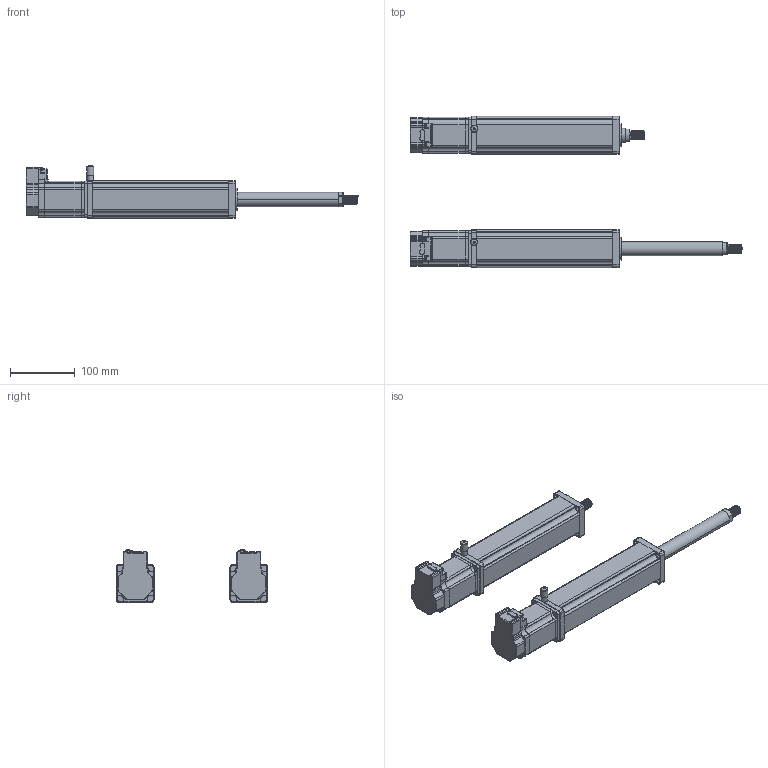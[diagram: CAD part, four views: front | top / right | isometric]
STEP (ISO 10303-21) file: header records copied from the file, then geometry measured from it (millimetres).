
FILE_DESCRIPTION(('FreeCAD Model'),'2;1');
FILE_NAME('Open CASCADE Shape Model','2023-08-04T13:24:52',('Author'),( ''),'Open CASCADE STEP processor 7.5','FreeCAD','Unknown');
FILE_SCHEMA(('AUTOMOTIVE_DESIGN { 1 0 10303 214 1 1 1 1 }'));
Length unit declared in the file: millimetre
Products named in the file (47): Unnamed; Shapes; Shapes001; Shapes002; Shapes003; Shapes004; Shapes005; Shapes006; Shapes007; Shapes008; Shapes009; Shapes010; Shapes011; Shapes012; Shapes013; Shapes014; Shapes015; Shapes016; Shapes017; Shapes018; Shapes019; Shapes020; Shapes021; Shapes022; Shapes023; Shapes024; Shapes025; Shapes026; Shapes027; Shapes028; Shapes029; Shapes030; Shapes031; Shapes032; Shapes033; Shapes034; Shapes035; Shapes036; Shapes037; Shapes038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
Assembly tree (46 placements, depth 2):
  Unnamed
    Shapes
    Shapes001
    Shapes002
    Shapes003
    Shapes004
    Shapes005
    Shapes006
    Shapes007
    Shapes008
    Shapes009
    Shapes010
    Shapes011
    Shapes012
    Shapes013
    Shapes014
    Shapes015
    Shapes016
    Shapes017
    Shapes018
    Shapes019
    Shapes020
    Shapes021
    Shapes022
    Shapes023
    Shapes024
    Shapes025
    Shapes026
    Shapes027
    Shapes028
    Shapes029
    Shapes030
    Shapes031
    Shapes032
    Shapes033
    Shapes034
    Shapes035
    Shapes036
    Shapes037
    Shapes038
    Shapes039
    Shapes040
    Shapes041
    Shapes042
    Shapes043
    AN10-01
    AN10-002
Bounding box: 512.5 x 233.23 x 81.34 mm (x, y, z)
Volume: 2015043.4 mm3; surface area: 277392.7 mm2
Topology: 46 solids, 46 shells, 1358 faces, 3600 edges, 2342 vertices
Faces by surface type: plane 770, cylinder 476, bspline 60, torus 38, sphere 10, cone 4
Full cylindrical faces by diameter (mm): 6 x2, 9.728 x2, 11 x2
Entity records: 146429 total; most frequent: CARTESIAN_POINT 73933, DIRECTION 13359, LINE 8409, VECTOR 8409, ORIENTED_EDGE 7168, PCURVE 7168, DEFINITIONAL_REPRESENTATION 7168, EDGE_CURVE 3584
